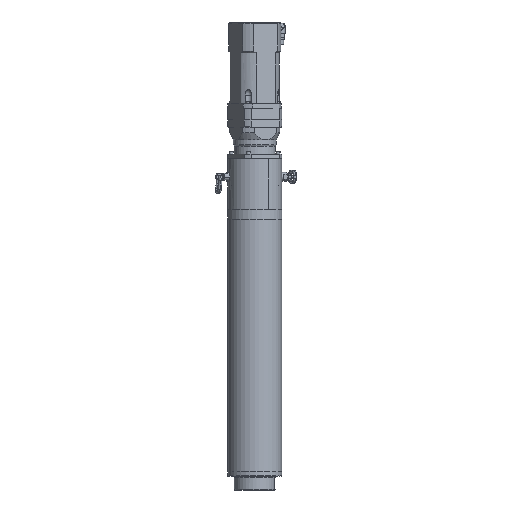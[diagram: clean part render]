
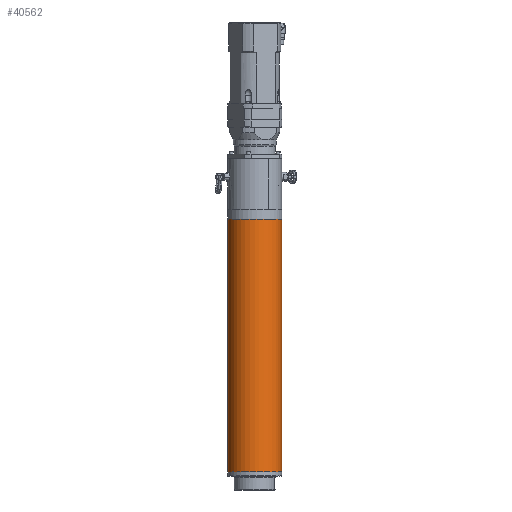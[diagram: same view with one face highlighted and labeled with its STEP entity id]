
A CAD part, front view. The second image highlights one B-rep face of the part: STEP entity #40562.
In plain terms, the highlighted cylindrical face has radius 120 mm (diameter 240 mm), a partial arc.
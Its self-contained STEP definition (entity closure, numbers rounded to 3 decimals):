
#1699 = VECTOR ( 'NONE', #14870, 1000. ) ;
#2717 = ORIENTED_EDGE ( 'NONE', *, *, #10001, .F. ) ;
#6477 = CARTESIAN_POINT ( 'NONE',  ( -120., 0., 20. ) ) ;
#10001 = EDGE_CURVE ( 'NONE', #32272, #11974, #56840, .T. ) ;
#10583 = CARTESIAN_POINT ( 'NONE',  ( 120., 0., 0. ) ) ;
#10973 = DIRECTION ( 'NONE',  ( 0., 0., -1. ) ) ;
#11602 = CIRCLE ( 'NONE', #34048, 120. ) ;
#11974 = VERTEX_POINT ( 'NONE', #41414 ) ;
#11983 = EDGE_CURVE ( 'NONE', #11974, #52666, #11602, .T. ) ;
#12294 = AXIS2_PLACEMENT_3D ( 'NONE', #19619, #43204, #33119 ) ;
#13044 = DIRECTION ( 'NONE',  ( 0., 0., -1. ) ) ;
#13375 = EDGE_CURVE ( 'NONE', #17295, #52666, #43987, .T. ) ;
#14870 = DIRECTION ( 'NONE',  ( 0., 0., -1. ) ) ;
#16188 = CIRCLE ( 'NONE', #12294, 120. ) ;
#17295 = VERTEX_POINT ( 'NONE', #17680 ) ;
#17680 = CARTESIAN_POINT ( 'NONE',  ( -120., 0., 1136.5 ) ) ;
#19619 = CARTESIAN_POINT ( 'NONE',  ( 0., 0., 1136.5 ) ) ;
#22035 = ORIENTED_EDGE ( 'NONE', *, *, #28767, .T. ) ;
#23005 = DIRECTION ( 'NONE',  ( -1., 0., 0. ) ) ;
#27402 = AXIS2_PLACEMENT_3D ( 'NONE', #36601, #13044, #50121 ) ;
#28767 = EDGE_CURVE ( 'NONE', #32272, #17295, #16188, .T. ) ;
#29925 = CARTESIAN_POINT ( 'NONE',  ( -120., 0., 0. ) ) ;
#31499 = CARTESIAN_POINT ( 'NONE',  ( 120., 0., 1136.5 ) ) ;
#32272 = VERTEX_POINT ( 'NONE', #31499 ) ;
#33119 = DIRECTION ( 'NONE',  ( -1., 0., 0. ) ) ;
#34048 = AXIS2_PLACEMENT_3D ( 'NONE', #47288, #46982, #23005 ) ;
#36601 = CARTESIAN_POINT ( 'NONE',  ( 0., 0., 0. ) ) ;
#40562 = ADVANCED_FACE ( 'NONE', ( #43670 ), #52908, .T. ) ;
#41414 = CARTESIAN_POINT ( 'NONE',  ( 120., 0., 20. ) ) ;
#43204 = DIRECTION ( 'NONE',  ( 0., 0., -1. ) ) ;
#43670 = FACE_OUTER_BOUND ( 'NONE', #57686, .T. ) ;
#43987 = LINE ( 'NONE', #29925, #51164 ) ;
#46982 = DIRECTION ( 'NONE',  ( 0., 0., -1. ) ) ;
#47288 = CARTESIAN_POINT ( 'NONE',  ( 0., 0., 20. ) ) ;
#48165 = ORIENTED_EDGE ( 'NONE', *, *, #13375, .T. ) ;
#50121 = DIRECTION ( 'NONE',  ( -1., 0., 0. ) ) ;
#51164 = VECTOR ( 'NONE', #10973, 1000. ) ;
#52666 = VERTEX_POINT ( 'NONE', #6477 ) ;
#52908 = CYLINDRICAL_SURFACE ( 'NONE', #27402, 120. ) ;
#54439 = ORIENTED_EDGE ( 'NONE', *, *, #11983, .F. ) ;
#56840 = LINE ( 'NONE', #10583, #1699 ) ;
#57686 = EDGE_LOOP ( 'NONE', ( #2717, #22035, #48165, #54439 ) ) ;
